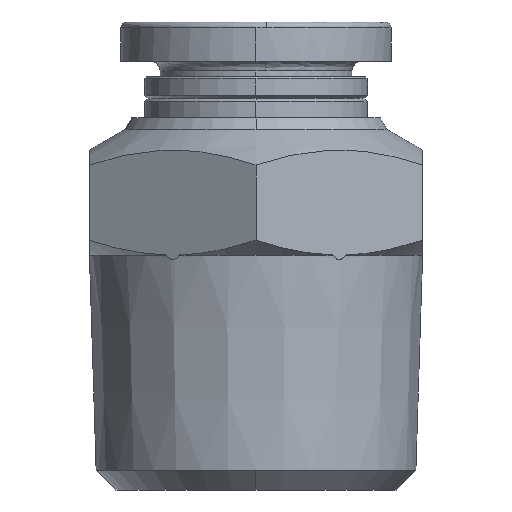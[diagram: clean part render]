
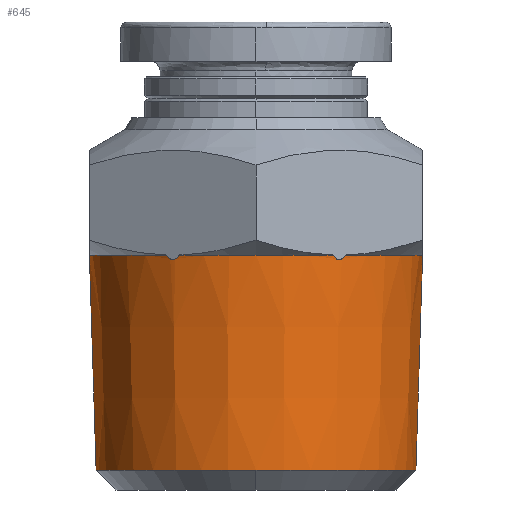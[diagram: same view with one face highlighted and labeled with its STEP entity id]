
A CAD part, left-side view. The second image highlights one B-rep face of the part: STEP entity #645.
In plain terms, the highlighted conical face has half-angle 1.79 degrees and reference radius 8.508 mm.
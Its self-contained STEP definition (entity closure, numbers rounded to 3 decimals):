
#6 = CARTESIAN_POINT ( 'NONE',  ( -0.075, 8.5, 11.758 ) ) ;
#9 = CARTESIAN_POINT ( 'NONE',  ( -0.147, 8.5, 11.792 ) ) ;
#19 = CARTESIAN_POINT ( 'NONE',  ( -0.265, 8.5, 11.884 ) ) ;
#30 = CARTESIAN_POINT ( 'NONE',  ( -0.359, 8.5, 12. ) ) ;
#35 = CARTESIAN_POINT ( 'NONE',  ( -7.323, -4.316, 11.758 ) ) ;
#53 = AXIS2_PLACEMENT_3D ( 'NONE', #327, #330, #318 ) ;
#82 = AXIS2_PLACEMENT_3D ( 'NONE', #185, #197, #415 ) ;
#101 = DIRECTION ( 'NONE',  ( 0., 0., -1. ) ) ;
#106 = CONICAL_SURFACE ( 'NONE', #53, 8.508, 0.031 ) ;
#119 = CARTESIAN_POINT ( 'NONE',  ( -0.314, 8.5, 11.94 ) ) ;
#130 = CARTESIAN_POINT ( 'NONE',  ( -0.075, -8.5, 11.758 ) ) ;
#141 = CIRCLE ( 'NONE', #82, 8.164 ) ;
#147 = AXIS2_PLACEMENT_3D ( 'NONE', #1127, #873, #786 ) ;
#149 = FACE_OUTER_BOUND ( 'NONE', #501, .T. ) ;
#185 = CARTESIAN_POINT ( 'NONE',  ( 0., 0., 1.014 ) ) ;
#188 = CIRCLE ( 'NONE', #147, 8.508 ) ;
#197 = DIRECTION ( 'NONE',  ( 0., 0., 1. ) ) ;
#246 = CARTESIAN_POINT ( 'NONE',  ( -7.182, 4.561, 12. ) ) ;
#253 = CARTESIAN_POINT ( 'NONE',  ( -7.204, 4.522, 11.94 ) ) ;
#257 = ORIENTED_EDGE ( 'NONE', *, *, #575, .T. ) ;
#260 = CARTESIAN_POINT ( 'NONE',  ( -7.229, 4.479, 11.883 ) ) ;
#266 = ORIENTED_EDGE ( 'NONE', *, *, #630, .T. ) ;
#270 = CARTESIAN_POINT ( 'NONE',  ( -7.288, 4.376, 11.791 ) ) ;
#279 = CARTESIAN_POINT ( 'NONE',  ( -7.324, 4.314, 11.758 ) ) ;
#318 = DIRECTION ( 'NONE',  ( 0., -1., 0. ) ) ;
#327 = CARTESIAN_POINT ( 'NONE',  ( 0., 0., 12. ) ) ;
#330 = DIRECTION ( 'NONE',  ( 0., 0., 1. ) ) ;
#387 = B_SPLINE_CURVE_WITH_KNOTS ( 'NONE', 3,
 ( #30, #119, #19, #9, #6, #549 ),
 .UNSPECIFIED., .F., .F.,
 ( 4, 2, 4 ),
 ( 0., 0., 0. ),
 .UNSPECIFIED. ) ;
#395 = VERTEX_POINT ( 'NONE', #980 ) ;
#415 = DIRECTION ( 'NONE',  ( 1., 0., 0. ) ) ;
#433 = CARTESIAN_POINT ( 'NONE',  ( -7.493, -4.021, 11.883 ) ) ;
#466 = CARTESIAN_POINT ( 'NONE',  ( -7.399, 4.184, 11.758 ) ) ;
#478 = CARTESIAN_POINT ( 'NONE',  ( -7.435, 4.122, 11.793 ) ) ;
#495 = CARTESIAN_POINT ( 'NONE',  ( -7.494, 4.02, 11.884 ) ) ;
#501 = EDGE_LOOP ( 'NONE', ( #1737, #1768, #266, #1467, #1075, #257, #1876, #1614, #1544, #1846, #1562 ) ) ;
#508 = B_SPLINE_CURVE_WITH_KNOTS ( 'NONE', 3,
 ( #1854, #130, #916, #1560, #1202, #1259 ),
 .UNSPECIFIED., .F., .F.,
 ( 4, 2, 4 ),
 ( 0., 0.001, 0.001 ),
 .UNSPECIFIED. ) ;
#519 = VERTEX_POINT ( 'NONE', #972 ) ;
#549 = CARTESIAN_POINT ( 'NONE',  ( 0., 8.5, 11.758 ) ) ;
#561 = VERTEX_POINT ( 'NONE', #1672 ) ;
#565 = EDGE_CURVE ( 'NONE', #1798, #1195, #1170, .T. ) ;
#575 = EDGE_CURVE ( 'NONE', #395, #1798, #188, .T. ) ;
#580 = EDGE_CURVE ( 'NONE', #1166, #395, #508, .T. ) ;
#630 = EDGE_CURVE ( 'NONE', #1330, #731, #141, .T. ) ;
#645 = ADVANCED_FACE ( '26', ( #149 ), #106, .T. ) ;
#693 = EDGE_CURVE ( 'NONE', #807, #561, #387, .T. ) ;
#718 = CARTESIAN_POINT ( 'NONE',  ( -7.287, -4.378, 11.793 ) ) ;
#731 = VERTEX_POINT ( 'NONE', #1630 ) ;
#740 = EDGE_CURVE ( 'NONE', #519, #1668, #1814, .T. ) ;
#785 = EDGE_CURVE ( 'NONE', #1668, #807, #1358, .T. ) ;
#786 = DIRECTION ( 'NONE',  ( -0.998, 0.065, 0. ) ) ;
#807 = VERTEX_POINT ( 'NONE', #863 ) ;
#808 = EDGE_CURVE ( 'NONE', #1195, #519, #1352, .T. ) ;
#820 = DIRECTION ( 'NONE',  ( 1., 0., 0. ) ) ;
#825 = DIRECTION ( 'NONE',  ( 0., 0., -1. ) ) ;
#827 = CARTESIAN_POINT ( 'NONE',  ( 0., 0., 12. ) ) ;
#863 = CARTESIAN_POINT ( 'NONE',  ( -0.359, 8.5, 12. ) ) ;
#873 = DIRECTION ( 'NONE',  ( 0., 0., -1. ) ) ;
#885 = CARTESIAN_POINT ( 'NONE',  ( -7.182, -4.561, 12. ) ) ;
#905 = EDGE_CURVE ( 'NONE', #1415, #1330, #1541, .T. ) ;
#916 = CARTESIAN_POINT ( 'NONE',  ( -0.146, -8.5, 11.792 ) ) ;
#931 = DIRECTION ( 'NONE',  ( 1., 0., 0. ) ) ;
#939 = CARTESIAN_POINT ( 'NONE',  ( 0., 0., 12. ) ) ;
#972 = CARTESIAN_POINT ( 'NONE',  ( -7.541, 3.939, 12. ) ) ;
#980 = CARTESIAN_POINT ( 'NONE',  ( -0.359, -8.5, 12. ) ) ;
#1040 = CARTESIAN_POINT ( 'NONE',  ( -7.541, 3.939, 12. ) ) ;
#1075 = ORIENTED_EDGE ( 'NONE', *, *, #580, .T. ) ;
#1127 = CARTESIAN_POINT ( 'NONE',  ( 0., 0., 12. ) ) ;
#1141 = CARTESIAN_POINT ( 'NONE',  ( -7.182, 4.561, 12. ) ) ;
#1166 = VERTEX_POINT ( 'NONE', #1609 ) ;
#1170 = B_SPLINE_CURVE_WITH_KNOTS ( 'NONE', 3,
 ( #1400, #1542, #1408, #718, #35, #1272, #1845, #433, #1856, #1858 ),
 .UNSPECIFIED., .F., .F.,
 ( 4, 2, 2, 2, 4 ),
 ( 0., 0., 0., 0.001, 0.001 ),
 .UNSPECIFIED. ) ;
#1195 = VERTEX_POINT ( 'NONE', #1813 ) ;
#1202 = CARTESIAN_POINT ( 'NONE',  ( -0.314, -8.5, 11.94 ) ) ;
#1215 = EDGE_CURVE ( 'NONE', #1415, #561, #1372, .T. ) ;
#1249 = LINE ( 'NONE', #1270, #1253 ) ;
#1253 = VECTOR ( 'NONE', #1301, 1000. ) ;
#1259 = CARTESIAN_POINT ( 'NONE',  ( -0.359, -8.5, 12. ) ) ;
#1270 = CARTESIAN_POINT ( 'NONE',  ( 0., -8.508, 12. ) ) ;
#1272 = CARTESIAN_POINT ( 'NONE',  ( -7.398, -4.186, 11.758 ) ) ;
#1301 = DIRECTION ( 'NONE',  ( 0., -0.031, 1. ) ) ;
#1305 = EDGE_CURVE ( 'NONE', #731, #1166, #1249, .T. ) ;
#1317 = VECTOR ( 'NONE', #1872, 1000. ) ;
#1330 = VERTEX_POINT ( 'NONE', #1342 ) ;
#1342 = CARTESIAN_POINT ( 'NONE',  ( -8.164, 0., 1.014 ) ) ;
#1352 = CIRCLE ( 'NONE', #1502, 8.508 ) ;
#1358 = CIRCLE ( 'NONE', #1474, 8.508 ) ;
#1372 = LINE ( 'NONE', #1877, #1317 ) ;
#1394 = AXIS2_PLACEMENT_3D ( 'NONE', #1507, #1510, #1469 ) ;
#1400 = CARTESIAN_POINT ( 'NONE',  ( -7.182, -4.561, 12. ) ) ;
#1408 = CARTESIAN_POINT ( 'NONE',  ( -7.228, -4.48, 11.884 ) ) ;
#1415 = VERTEX_POINT ( 'NONE', #1417 ) ;
#1417 = CARTESIAN_POINT ( 'NONE',  ( 0., 8.164, 1.014 ) ) ;
#1440 = CARTESIAN_POINT ( 'NONE',  ( -7.518, 3.978, 11.94 ) ) ;
#1467 = ORIENTED_EDGE ( 'NONE', *, *, #1305, .T. ) ;
#1469 = DIRECTION ( 'NONE',  ( 1., 0., 0. ) ) ;
#1474 = AXIS2_PLACEMENT_3D ( 'NONE', #939, #101, #931 ) ;
#1502 = AXIS2_PLACEMENT_3D ( 'NONE', #827, #825, #820 ) ;
#1507 = CARTESIAN_POINT ( 'NONE',  ( 0., 0., 1.014 ) ) ;
#1510 = DIRECTION ( 'NONE',  ( 0., 0., 1. ) ) ;
#1541 = CIRCLE ( 'NONE', #1394, 8.164 ) ;
#1542 = CARTESIAN_POINT ( 'NONE',  ( -7.204, -4.522, 11.94 ) ) ;
#1544 = ORIENTED_EDGE ( 'NONE', *, *, #740, .T. ) ;
#1560 = CARTESIAN_POINT ( 'NONE',  ( -0.264, -8.5, 11.883 ) ) ;
#1562 = ORIENTED_EDGE ( 'NONE', *, *, #693, .T. ) ;
#1609 = CARTESIAN_POINT ( 'NONE',  ( 0., -8.5, 11.758 ) ) ;
#1614 = ORIENTED_EDGE ( 'NONE', *, *, #808, .T. ) ;
#1630 = CARTESIAN_POINT ( 'NONE',  ( 0., -8.164, 1.014 ) ) ;
#1668 = VERTEX_POINT ( 'NONE', #1141 ) ;
#1672 = CARTESIAN_POINT ( 'NONE',  ( 0., 8.5, 11.758 ) ) ;
#1737 = ORIENTED_EDGE ( 'NONE', *, *, #1215, .F. ) ;
#1768 = ORIENTED_EDGE ( 'NONE', *, *, #905, .T. ) ;
#1798 = VERTEX_POINT ( 'NONE', #885 ) ;
#1813 = CARTESIAN_POINT ( 'NONE',  ( -7.541, -3.939, 12. ) ) ;
#1814 = B_SPLINE_CURVE_WITH_KNOTS ( 'NONE', 3,
 ( #1040, #1440, #495, #478, #466, #279, #270, #260, #253, #246 ),
 .UNSPECIFIED., .F., .F.,
 ( 4, 2, 2, 2, 4 ),
 ( 0., 0., 0., 0.001, 0.001 ),
 .UNSPECIFIED. ) ;
#1845 = CARTESIAN_POINT ( 'NONE',  ( -7.434, -4.124, 11.791 ) ) ;
#1846 = ORIENTED_EDGE ( 'NONE', *, *, #785, .T. ) ;
#1854 = CARTESIAN_POINT ( 'NONE',  ( 0., -8.5, 11.758 ) ) ;
#1856 = CARTESIAN_POINT ( 'NONE',  ( -7.518, -3.978, 11.94 ) ) ;
#1858 = CARTESIAN_POINT ( 'NONE',  ( -7.541, -3.939, 12. ) ) ;
#1872 = DIRECTION ( 'NONE',  ( 0., 0.031, 1. ) ) ;
#1876 = ORIENTED_EDGE ( 'NONE', *, *, #565, .T. ) ;
#1877 = CARTESIAN_POINT ( 'NONE',  ( 0., 8.508, 12. ) ) ;
